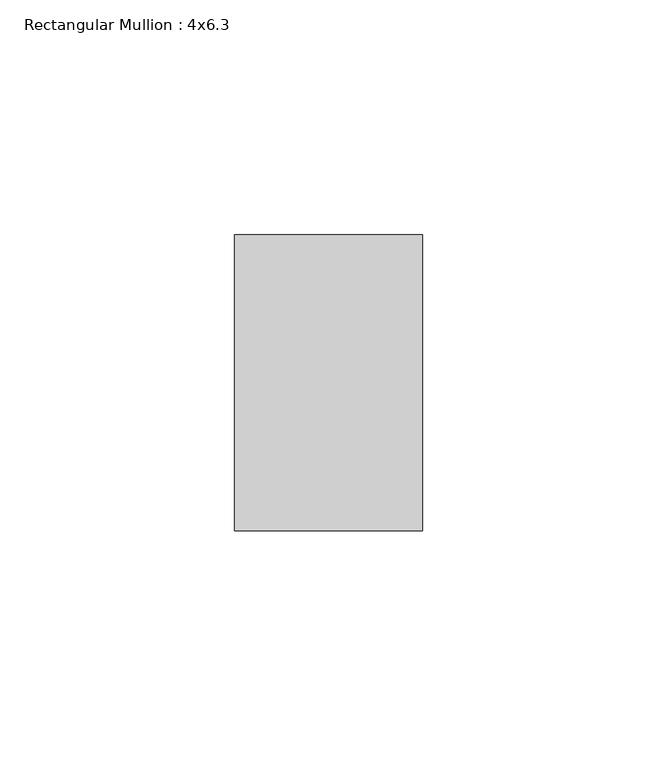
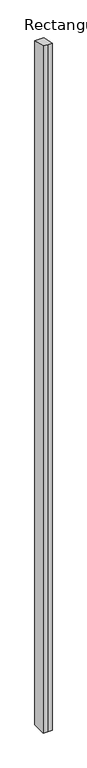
"""IFC4 building model written with IfcOpenShell, lengths in millimetres: member geometry, Rectangular Mullion : 4x6.3."""

from ifc_helpers import new_model, si_unit, origin, place, context, project, spatial, faceted_brep, source, transform, mapped, element, save


def rectangular_mullion_4x6_3_85f295b3(model_context):
    return source(origin(), model_context, "Body", "Brep", [
        faceted_brep([(-20.0, 20.0, -3241.3024348), (-20.0, 83.0, -3241.3024348), (20.0, 83.0, -3241.3024348), (20.0, 20.0, -3241.3024348), (0.0, 20.0, -3241.3024348), (0.0, 20.0, -4.3995804), (-20.0, 20.0, -4.3995804), (20.0, 20.0, -4.3995804), (20.0, 83.0, -18.2582585), (-20.0, 83.0, -18.2582585)], [[[0, 1, 2, 3, 4]], [[5, 6, 0, 4]], [[7, 5, 4, 3]], [[8, 7, 3, 2]], [[9, 8, 2, 1]], [[6, 9, 1, 0]], [[6, 5, 7, 8, 9]]]),
    ])


if __name__ == "__main__":
    model = new_model("IFC4")
    model_context = context("Model", 3, world=origin())
    ifc_project = project(units=[si_unit("LENGTHUNIT", "METRE", prefix="MILLI")], contexts=[model_context])
    site = spatial("IfcSite", under=ifc_project)
    building = spatial("IfcBuilding", under=site)
    placement = place(None, origin())
    rectangular_mullion_4x6_3_shape = rectangular_mullion_4x6_3_85f295b3(model_context)
    element("IfcMember", 1, ObjectType="Rectangular Mullion : 4x6.3", at=placement, inside=building, context=model_context, shape_type="MappedRepresentation", body=[
        mapped(rectangular_mullion_4x6_3_shape, transform((0.0, 0.0, 0.0), x_axis=(1.0, 0.0, 0.0), y_axis=(0.0, 1.0, 0.0), z_axis=(0.0, 0.0, 1.0))),
    ])
    save(model, "model.ifc")
